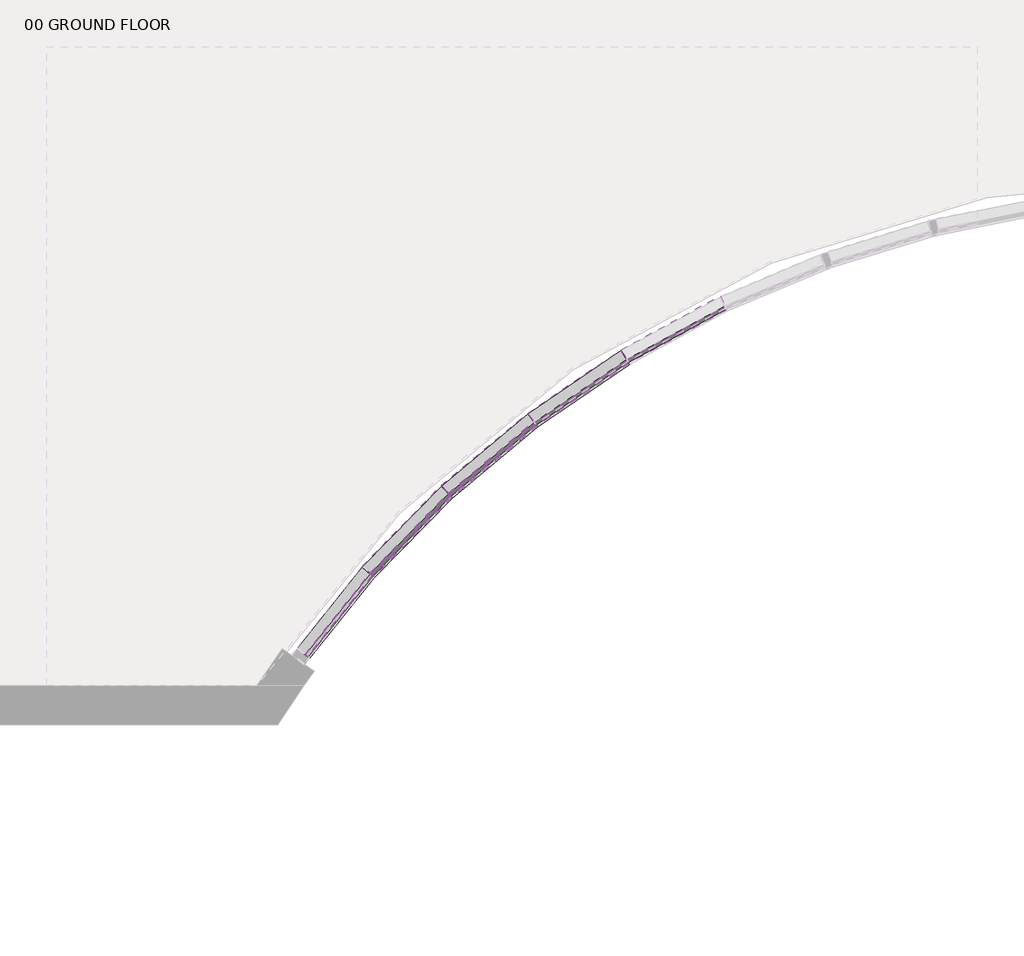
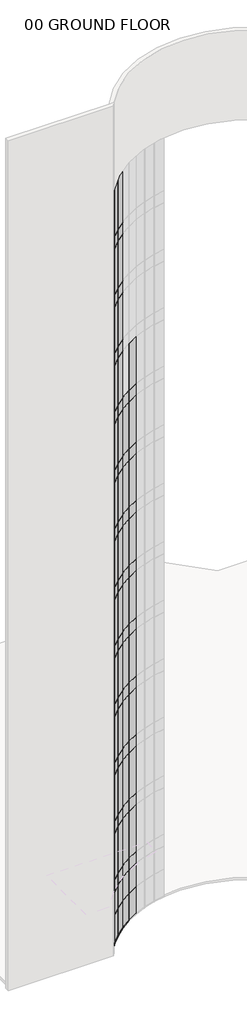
# One storey, part 5 of 33: 115 plates, 8 members.
"""IFC4 building model written with IfcOpenShell, lengths in millimetres."""

from ifc_helpers import new_model, si_unit, origin, place, context, project, spatial, transform, mapped, element, save
from components import member_bc59259d, member_67fc98f4, member_9bdda2ec, system_panel_su_blue_55959414, system_panel_su_blue_8e1787b9, system_panel_su_blue_a8d80527, system_panel_su_blue_184484ff, system_panel_su_blue_cfd944bc, system_panel_su_blue_923806a4, system_panel_su_blue_95bb2abf, system_panel_su_blue_04be1b57

model = new_model("IFC4")

# Units and contexts
model_context = context("Model", 3, world=origin())
ifc_project = project(units=[si_unit("LENGTHUNIT", "METRE", prefix="MILLI")], contexts=[model_context])

# Site, building, storey
site = spatial("IfcSite", under=ifc_project)
building = spatial("IfcBuilding", under=site)
storey = spatial("IfcBuildingStorey", under=building, Name="00 GROUND FLOOR", Elevation=0.0)

# Members
placement = place(None, origin())
member_shape = member_bc59259d(model_context)
element("IfcMember", 1, ObjectType="Rectangular Mullion : 2.5\" x 5\" rectangular", at=placement, inside=storey, context=model_context, shape_type="MappedRepresentation", body=[
    mapped(member_shape, transform((10412.6029469, 2776.0951856, 59436.0), x_axis=(0.0, 0.0, 1.0), y_axis=(-0.4773474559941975, 0.8787146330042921, 0.0), z_axis=(-0.8787146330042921, -0.4773474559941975, 0.0))),
])
element("IfcMember", 2, ObjectType="Rectangular Mullion : 2.5\" x 5\" rectangular", at=placement, inside=storey, context=model_context, shape_type="MappedRepresentation", body=[
    mapped(member_shape, transform((9673.1411425, 2273.2788717, 59436.0), x_axis=(0.0, 0.0, 1.0), y_axis=(-0.562296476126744, 0.8269357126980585, 0.0), z_axis=(-0.8269357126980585, -0.562296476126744, 0.0))),
])
element("IfcMember", 3, ObjectType="Rectangular Mullion : 2.5\" x 5\" rectangular", at=placement, inside=storey, context=model_context, shape_type="MappedRepresentation", body=[
    mapped(member_shape, transform((8987.2997873, 1699.4760821, 59436.0), x_axis=(0.0, 0.0, 1.0), y_axis=(-0.6416802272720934, 0.7669722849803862, 0.0), z_axis=(-0.7669722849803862, -0.6416802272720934, 0.0))),
])
element("IfcMember", 4, ObjectType="Rectangular Mullion : 2.5\" x 5\" rectangular", at=placement, inside=storey, context=model_context, shape_type="MappedRepresentation", body=[
    mapped(member_shape, transform((8361.8669227, 1060.3659684, 59436.0), x_axis=(0.0, 0.0, 1.0), y_axis=(-0.7147130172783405, 0.6994178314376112, 0.0), z_axis=(-0.6994178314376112, -0.7147130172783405, 0.0))),
])
element("IfcMember", 5, ObjectType="Rectangular Mullion : 2.5\" x 5\" rectangular", at=placement, inside=storey, context=model_context, shape_type="MappedRepresentation", body=[
    mapped(member_shape, transform((10412.6029469, 2776.0951856, 0.0), x_axis=(0.0, 0.0, -1.0), y_axis=(-0.5622964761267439, 0.8269357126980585, 0.0), z_axis=(0.8269357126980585, 0.5622964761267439, 0.0))),
])
element("IfcMember", 6, ObjectType="Rectangular Mullion : 2.5\" x 5\" rectangular", at=placement, inside=storey, context=model_context, shape_type="MappedRepresentation", body=[
    mapped(member_shape, transform((9673.1411425, 2273.2788717, 0.0), x_axis=(0.0, 0.0, -1.0), y_axis=(-0.6416802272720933, 0.7669722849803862, 0.0), z_axis=(0.7669722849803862, 0.6416802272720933, 0.0))),
])
member_2_shape = member_67fc98f4(model_context)
element("IfcMember", 7, ObjectType="Rectangular Mullion : 2.5\" x 5\" rectangular", at=placement, inside=storey, context=model_context, shape_type="MappedRepresentation", body=[
    mapped(member_2_shape, transform((8987.2997873, 1699.4760821, 0.0), x_axis=(0.0, 0.0, -1.0), y_axis=(-0.7147130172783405, 0.6994178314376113, 0.0), z_axis=(0.6994178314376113, 0.7147130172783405, 0.0))),
])
member_3_shape = member_9bdda2ec(model_context)
element("IfcMember", 8, ObjectType="Rectangular Mullion : 2.5\" x 5\" rectangular", at=placement, inside=storey, context=model_context, shape_type="MappedRepresentation", body=[
    mapped(member_3_shape, transform((8361.8669227, 1060.3659684, 0.0), x_axis=(0.0, 0.0, -1.0), y_axis=(-0.7806720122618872, 0.6249409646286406, 0.0), z_axis=(0.6249409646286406, 0.7806720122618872, 0.0))),
])

# Plates
system_panel_su_blue_shape = system_panel_su_blue_55959414(model_context)
element("IfcPlate", 9, ObjectType="System Panel : SU_BLUE", at=placement, inside=storey, context=model_context, shape_type="MappedRepresentation", body=[
    mapped(system_panel_su_blue_shape, transform((10805.4847018, 2989.5218194, 63.5), x_axis=(-0.8787146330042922, -0.4773474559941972, 0.0), y_axis=(0.4773474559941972, -0.8787146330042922, 0.0), z_axis=(0.0, 0.0, 1.0))),
])
element("IfcPlate", 10, ObjectType="System Panel : SU_BLUE", at=placement, inside=storey, context=model_context, shape_type="MappedRepresentation", body=[
    mapped(system_panel_su_blue_shape, transform((10042.8720447, 2524.6870286, 63.5), x_axis=(-0.8269357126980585, -0.5622964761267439, 0.0), y_axis=(0.5622964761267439, -0.8269357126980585, 0.0), z_axis=(0.0, 0.0, 1.0))),
])
element("IfcPlate", 11, ObjectType="System Panel : SU_BLUE", at=placement, inside=storey, context=model_context, shape_type="MappedRepresentation", body=[
    mapped(system_panel_su_blue_shape, transform((9330.2204649, 1986.3774769, 63.5), x_axis=(-0.7669722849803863, -0.6416802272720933, 0.0), y_axis=(0.6416802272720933, -0.7669722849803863, 0.0), z_axis=(0.0, 0.0, 1.0))),
])
element("IfcPlate", 12, ObjectType="System Panel : SU_BLUE", at=placement, inside=storey, context=model_context, shape_type="MappedRepresentation", body=[
    mapped(system_panel_su_blue_shape, transform((8674.583355, 1379.9210253, 63.5), x_axis=(-0.6994178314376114, -0.7147130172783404, 0.0), y_axis=(0.7147130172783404, -0.6994178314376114, 0.0), z_axis=(0.0, 0.0, 1.0))),
])
system_panel_su_blue_2_shape = system_panel_su_blue_8e1787b9(model_context)
element("IfcPlate", 13, ObjectType="System Panel : SU_BLUE", at=placement, inside=storey, context=model_context, shape_type="MappedRepresentation", body=[
    mapped(system_panel_su_blue_2_shape, transform((10805.4847018, 2989.5218194, 2133.6), x_axis=(-0.8787146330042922, -0.4773474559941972, 0.0), y_axis=(0.4773474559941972, -0.8787146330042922, 0.0), z_axis=(0.0, 0.0, 1.0))),
])
element("IfcPlate", 14, ObjectType="System Panel : SU_BLUE", at=placement, inside=storey, context=model_context, shape_type="MappedRepresentation", body=[
    mapped(system_panel_su_blue_2_shape, transform((10042.8720447, 2524.6870286, 2133.6), x_axis=(-0.8269357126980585, -0.5622964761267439, 0.0), y_axis=(0.5622964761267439, -0.8269357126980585, 0.0), z_axis=(0.0, 0.0, 1.0))),
])
element("IfcPlate", 15, ObjectType="System Panel : SU_BLUE", at=placement, inside=storey, context=model_context, shape_type="MappedRepresentation", body=[
    mapped(system_panel_su_blue_2_shape, transform((9330.2204649, 1986.3774769, 2133.6), x_axis=(-0.7669722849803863, -0.6416802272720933, 0.0), y_axis=(0.6416802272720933, -0.7669722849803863, 0.0), z_axis=(0.0, 0.0, 1.0))),
])
element("IfcPlate", 16, ObjectType="System Panel : SU_BLUE", at=placement, inside=storey, context=model_context, shape_type="MappedRepresentation", body=[
    mapped(system_panel_su_blue_2_shape, transform((8674.583355, 1379.9210253, 2133.6), x_axis=(-0.6994178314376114, -0.7147130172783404, 0.0), y_axis=(0.7147130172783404, -0.6994178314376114, 0.0), z_axis=(0.0, 0.0, 1.0))),
])
system_panel_su_blue_3_shape = system_panel_su_blue_a8d80527(model_context)
element("IfcPlate", 17, ObjectType="System Panel : SU_BLUE", at=placement, inside=storey, context=model_context, shape_type="MappedRepresentation", body=[
    mapped(system_panel_su_blue_3_shape, transform((10805.4847018, 2989.5218194, 3962.4), x_axis=(-0.8787146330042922, -0.4773474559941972, 0.0), y_axis=(0.4773474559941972, -0.8787146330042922, 0.0), z_axis=(0.0, 0.0, 1.0))),
])
element("IfcPlate", 18, ObjectType="System Panel : SU_BLUE", at=placement, inside=storey, context=model_context, shape_type="MappedRepresentation", body=[
    mapped(system_panel_su_blue_3_shape, transform((10042.8720447, 2524.6870286, 3962.4), x_axis=(-0.8269357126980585, -0.5622964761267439, 0.0), y_axis=(0.5622964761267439, -0.8269357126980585, 0.0), z_axis=(0.0, 0.0, 1.0))),
])
element("IfcPlate", 19, ObjectType="System Panel : SU_BLUE", at=placement, inside=storey, context=model_context, shape_type="MappedRepresentation", body=[
    mapped(system_panel_su_blue_3_shape, transform((9330.2204649, 1986.3774769, 3962.4), x_axis=(-0.7669722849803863, -0.6416802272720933, 0.0), y_axis=(0.6416802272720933, -0.7669722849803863, 0.0), z_axis=(0.0, 0.0, 1.0))),
])
element("IfcPlate", 20, ObjectType="System Panel : SU_BLUE", at=placement, inside=storey, context=model_context, shape_type="MappedRepresentation", body=[
    mapped(system_panel_su_blue_3_shape, transform((8674.583355, 1379.9210253, 3962.4), x_axis=(-0.6994178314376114, -0.7147130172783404, 0.0), y_axis=(0.7147130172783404, -0.6994178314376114, 0.0), z_axis=(0.0, 0.0, 1.0))),
])
element("IfcPlate", 21, ObjectType="System Panel : SU_BLUE", at=placement, inside=storey, context=model_context, shape_type="MappedRepresentation", body=[
    mapped(system_panel_su_blue_3_shape, transform((10805.4847018, 2989.5218194, 8534.4), x_axis=(-0.8787146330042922, -0.4773474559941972, 0.0), y_axis=(0.4773474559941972, -0.8787146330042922, 0.0), z_axis=(0.0, 0.0, 1.0))),
])
element("IfcPlate", 22, ObjectType="System Panel : SU_BLUE", at=placement, inside=storey, context=model_context, shape_type="MappedRepresentation", body=[
    mapped(system_panel_su_blue_3_shape, transform((10042.8720447, 2524.6870286, 8534.4), x_axis=(-0.8269357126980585, -0.5622964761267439, 0.0), y_axis=(0.5622964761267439, -0.8269357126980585, 0.0), z_axis=(0.0, 0.0, 1.0))),
])
element("IfcPlate", 23, ObjectType="System Panel : SU_BLUE", at=placement, inside=storey, context=model_context, shape_type="MappedRepresentation", body=[
    mapped(system_panel_su_blue_3_shape, transform((9330.2204649, 1986.3774769, 8534.4), x_axis=(-0.7669722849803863, -0.6416802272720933, 0.0), y_axis=(0.6416802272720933, -0.7669722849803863, 0.0), z_axis=(0.0, 0.0, 1.0))),
])
element("IfcPlate", 24, ObjectType="System Panel : SU_BLUE", at=placement, inside=storey, context=model_context, shape_type="MappedRepresentation", body=[
    mapped(system_panel_su_blue_3_shape, transform((8674.583355, 1379.9210253, 8534.4), x_axis=(-0.6994178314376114, -0.7147130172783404, 0.0), y_axis=(0.7147130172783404, -0.6994178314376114, 0.0), z_axis=(0.0, 0.0, 1.0))),
])
element("IfcPlate", 25, ObjectType="System Panel : SU_BLUE", at=placement, inside=storey, context=model_context, shape_type="MappedRepresentation", body=[
    mapped(system_panel_su_blue_3_shape, transform((10805.4847018, 2989.5218194, 13106.4), x_axis=(-0.8787146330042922, -0.4773474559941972, 0.0), y_axis=(0.4773474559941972, -0.8787146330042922, 0.0), z_axis=(0.0, 0.0, 1.0))),
])
element("IfcPlate", 26, ObjectType="System Panel : SU_BLUE", at=placement, inside=storey, context=model_context, shape_type="MappedRepresentation", body=[
    mapped(system_panel_su_blue_3_shape, transform((10042.8720447, 2524.6870286, 13106.4), x_axis=(-0.8269357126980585, -0.5622964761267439, 0.0), y_axis=(0.5622964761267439, -0.8269357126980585, 0.0), z_axis=(0.0, 0.0, 1.0))),
])
element("IfcPlate", 27, ObjectType="System Panel : SU_BLUE", at=placement, inside=storey, context=model_context, shape_type="MappedRepresentation", body=[
    mapped(system_panel_su_blue_3_shape, transform((9330.2204649, 1986.3774769, 13106.4), x_axis=(-0.7669722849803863, -0.6416802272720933, 0.0), y_axis=(0.6416802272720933, -0.7669722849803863, 0.0), z_axis=(0.0, 0.0, 1.0))),
])
element("IfcPlate", 28, ObjectType="System Panel : SU_BLUE", at=placement, inside=storey, context=model_context, shape_type="MappedRepresentation", body=[
    mapped(system_panel_su_blue_3_shape, transform((8674.583355, 1379.9210253, 13106.4), x_axis=(-0.6994178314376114, -0.7147130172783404, 0.0), y_axis=(0.7147130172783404, -0.6994178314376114, 0.0), z_axis=(0.0, 0.0, 1.0))),
])
element("IfcPlate", 29, ObjectType="System Panel : SU_BLUE", at=placement, inside=storey, context=model_context, shape_type="MappedRepresentation", body=[
    mapped(system_panel_su_blue_3_shape, transform((10805.4847018, 2989.5218194, 17678.4), x_axis=(-0.8787146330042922, -0.4773474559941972, 0.0), y_axis=(0.4773474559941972, -0.8787146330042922, 0.0), z_axis=(0.0, 0.0, 1.0))),
])
element("IfcPlate", 30, ObjectType="System Panel : SU_BLUE", at=placement, inside=storey, context=model_context, shape_type="MappedRepresentation", body=[
    mapped(system_panel_su_blue_3_shape, transform((10042.8720447, 2524.6870286, 17678.4), x_axis=(-0.8269357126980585, -0.5622964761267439, 0.0), y_axis=(0.5622964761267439, -0.8269357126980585, 0.0), z_axis=(0.0, 0.0, 1.0))),
])
element("IfcPlate", 31, ObjectType="System Panel : SU_BLUE", at=placement, inside=storey, context=model_context, shape_type="MappedRepresentation", body=[
    mapped(system_panel_su_blue_3_shape, transform((9330.2204649, 1986.3774769, 17678.4), x_axis=(-0.7669722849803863, -0.6416802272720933, 0.0), y_axis=(0.6416802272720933, -0.7669722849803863, 0.0), z_axis=(0.0, 0.0, 1.0))),
])
element("IfcPlate", 32, ObjectType="System Panel : SU_BLUE", at=placement, inside=storey, context=model_context, shape_type="MappedRepresentation", body=[
    mapped(system_panel_su_blue_3_shape, transform((8674.583355, 1379.9210253, 17678.4), x_axis=(-0.6994178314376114, -0.7147130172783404, 0.0), y_axis=(0.7147130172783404, -0.6994178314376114, 0.0), z_axis=(0.0, 0.0, 1.0))),
])
element("IfcPlate", 33, ObjectType="System Panel : SU_BLUE", at=placement, inside=storey, context=model_context, shape_type="MappedRepresentation", body=[
    mapped(system_panel_su_blue_3_shape, transform((10805.4847018, 2989.5218194, 22250.4), x_axis=(-0.8787146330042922, -0.4773474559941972, 0.0), y_axis=(0.4773474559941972, -0.8787146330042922, 0.0), z_axis=(0.0, 0.0, 1.0))),
])
element("IfcPlate", 34, ObjectType="System Panel : SU_BLUE", at=placement, inside=storey, context=model_context, shape_type="MappedRepresentation", body=[
    mapped(system_panel_su_blue_3_shape, transform((10042.8720447, 2524.6870286, 22250.4), x_axis=(-0.8269357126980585, -0.5622964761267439, 0.0), y_axis=(0.5622964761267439, -0.8269357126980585, 0.0), z_axis=(0.0, 0.0, 1.0))),
])
element("IfcPlate", 35, ObjectType="System Panel : SU_BLUE", at=placement, inside=storey, context=model_context, shape_type="MappedRepresentation", body=[
    mapped(system_panel_su_blue_3_shape, transform((9330.2204649, 1986.3774769, 22250.4), x_axis=(-0.7669722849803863, -0.6416802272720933, 0.0), y_axis=(0.6416802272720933, -0.7669722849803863, 0.0), z_axis=(0.0, 0.0, 1.0))),
])
element("IfcPlate", 36, ObjectType="System Panel : SU_BLUE", at=placement, inside=storey, context=model_context, shape_type="MappedRepresentation", body=[
    mapped(system_panel_su_blue_3_shape, transform((8674.583355, 1379.9210253, 22250.4), x_axis=(-0.6994178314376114, -0.7147130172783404, 0.0), y_axis=(0.7147130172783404, -0.6994178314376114, 0.0), z_axis=(0.0, 0.0, 1.0))),
])
element("IfcPlate", 37, ObjectType="System Panel : SU_BLUE", at=placement, inside=storey, context=model_context, shape_type="MappedRepresentation", body=[
    mapped(system_panel_su_blue_3_shape, transform((10805.4847018, 2989.5218194, 26822.4), x_axis=(-0.8787146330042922, -0.4773474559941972, 0.0), y_axis=(0.4773474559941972, -0.8787146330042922, 0.0), z_axis=(0.0, 0.0, 1.0))),
])
element("IfcPlate", 38, ObjectType="System Panel : SU_BLUE", at=placement, inside=storey, context=model_context, shape_type="MappedRepresentation", body=[
    mapped(system_panel_su_blue_3_shape, transform((10042.8720447, 2524.6870286, 26822.4), x_axis=(-0.8269357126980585, -0.5622964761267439, 0.0), y_axis=(0.5622964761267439, -0.8269357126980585, 0.0), z_axis=(0.0, 0.0, 1.0))),
])
element("IfcPlate", 39, ObjectType="System Panel : SU_BLUE", at=placement, inside=storey, context=model_context, shape_type="MappedRepresentation", body=[
    mapped(system_panel_su_blue_3_shape, transform((9330.2204649, 1986.3774769, 26822.4), x_axis=(-0.7669722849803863, -0.6416802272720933, 0.0), y_axis=(0.6416802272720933, -0.7669722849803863, 0.0), z_axis=(0.0, 0.0, 1.0))),
])
element("IfcPlate", 40, ObjectType="System Panel : SU_BLUE", at=placement, inside=storey, context=model_context, shape_type="MappedRepresentation", body=[
    mapped(system_panel_su_blue_3_shape, transform((8674.583355, 1379.9210253, 26822.4), x_axis=(-0.6994178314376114, -0.7147130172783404, 0.0), y_axis=(0.7147130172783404, -0.6994178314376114, 0.0), z_axis=(0.0, 0.0, 1.0))),
])
element("IfcPlate", 41, ObjectType="System Panel : SU_BLUE", at=placement, inside=storey, context=model_context, shape_type="MappedRepresentation", body=[
    mapped(system_panel_su_blue_3_shape, transform((10805.4847018, 2989.5218194, 31394.4), x_axis=(-0.8787146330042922, -0.4773474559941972, 0.0), y_axis=(0.4773474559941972, -0.8787146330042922, 0.0), z_axis=(0.0, 0.0, 1.0))),
])
element("IfcPlate", 42, ObjectType="System Panel : SU_BLUE", at=placement, inside=storey, context=model_context, shape_type="MappedRepresentation", body=[
    mapped(system_panel_su_blue_3_shape, transform((10042.8720447, 2524.6870286, 31394.4), x_axis=(-0.8269357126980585, -0.5622964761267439, 0.0), y_axis=(0.5622964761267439, -0.8269357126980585, 0.0), z_axis=(0.0, 0.0, 1.0))),
])
element("IfcPlate", 43, ObjectType="System Panel : SU_BLUE", at=placement, inside=storey, context=model_context, shape_type="MappedRepresentation", body=[
    mapped(system_panel_su_blue_3_shape, transform((9330.2204649, 1986.3774769, 31394.4), x_axis=(-0.7669722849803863, -0.6416802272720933, 0.0), y_axis=(0.6416802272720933, -0.7669722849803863, 0.0), z_axis=(0.0, 0.0, 1.0))),
])
element("IfcPlate", 44, ObjectType="System Panel : SU_BLUE", at=placement, inside=storey, context=model_context, shape_type="MappedRepresentation", body=[
    mapped(system_panel_su_blue_3_shape, transform((8674.583355, 1379.9210253, 31394.4), x_axis=(-0.6994178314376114, -0.7147130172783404, 0.0), y_axis=(0.7147130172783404, -0.6994178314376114, 0.0), z_axis=(0.0, 0.0, 1.0))),
])
element("IfcPlate", 45, ObjectType="System Panel : SU_BLUE", at=placement, inside=storey, context=model_context, shape_type="MappedRepresentation", body=[
    mapped(system_panel_su_blue_3_shape, transform((10805.4847018, 2989.5218194, 35966.4), x_axis=(-0.8787146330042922, -0.4773474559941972, 0.0), y_axis=(0.4773474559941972, -0.8787146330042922, 0.0), z_axis=(0.0, 0.0, 1.0))),
])
element("IfcPlate", 46, ObjectType="System Panel : SU_BLUE", at=placement, inside=storey, context=model_context, shape_type="MappedRepresentation", body=[
    mapped(system_panel_su_blue_3_shape, transform((10042.8720447, 2524.6870286, 35966.4), x_axis=(-0.8269357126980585, -0.5622964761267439, 0.0), y_axis=(0.5622964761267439, -0.8269357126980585, 0.0), z_axis=(0.0, 0.0, 1.0))),
])
element("IfcPlate", 47, ObjectType="System Panel : SU_BLUE", at=placement, inside=storey, context=model_context, shape_type="MappedRepresentation", body=[
    mapped(system_panel_su_blue_3_shape, transform((9330.2204649, 1986.3774769, 35966.4), x_axis=(-0.7669722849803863, -0.6416802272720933, 0.0), y_axis=(0.6416802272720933, -0.7669722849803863, 0.0), z_axis=(0.0, 0.0, 1.0))),
])
element("IfcPlate", 48, ObjectType="System Panel : SU_BLUE", at=placement, inside=storey, context=model_context, shape_type="MappedRepresentation", body=[
    mapped(system_panel_su_blue_3_shape, transform((8674.583355, 1379.9210253, 35966.4), x_axis=(-0.6994178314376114, -0.7147130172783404, 0.0), y_axis=(0.7147130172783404, -0.6994178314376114, 0.0), z_axis=(0.0, 0.0, 1.0))),
])
element("IfcPlate", 49, ObjectType="System Panel : SU_BLUE", at=placement, inside=storey, context=model_context, shape_type="MappedRepresentation", body=[
    mapped(system_panel_su_blue_3_shape, transform((10805.4847018, 2989.5218194, 40538.4), x_axis=(-0.8787146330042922, -0.4773474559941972, 0.0), y_axis=(0.4773474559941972, -0.8787146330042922, 0.0), z_axis=(0.0, 0.0, 1.0))),
])
element("IfcPlate", 50, ObjectType="System Panel : SU_BLUE", at=placement, inside=storey, context=model_context, shape_type="MappedRepresentation", body=[
    mapped(system_panel_su_blue_3_shape, transform((10042.8720447, 2524.6870286, 40538.4), x_axis=(-0.8269357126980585, -0.5622964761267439, 0.0), y_axis=(0.5622964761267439, -0.8269357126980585, 0.0), z_axis=(0.0, 0.0, 1.0))),
])
element("IfcPlate", 51, ObjectType="System Panel : SU_BLUE", at=placement, inside=storey, context=model_context, shape_type="MappedRepresentation", body=[
    mapped(system_panel_su_blue_3_shape, transform((9330.2204649, 1986.3774769, 40538.4), x_axis=(-0.7669722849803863, -0.6416802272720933, 0.0), y_axis=(0.6416802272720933, -0.7669722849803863, 0.0), z_axis=(0.0, 0.0, 1.0))),
])
element("IfcPlate", 52, ObjectType="System Panel : SU_BLUE", at=placement, inside=storey, context=model_context, shape_type="MappedRepresentation", body=[
    mapped(system_panel_su_blue_3_shape, transform((8674.583355, 1379.9210253, 40538.4), x_axis=(-0.6994178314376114, -0.7147130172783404, 0.0), y_axis=(0.7147130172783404, -0.6994178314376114, 0.0), z_axis=(0.0, 0.0, 1.0))),
])
element("IfcPlate", 53, ObjectType="System Panel : SU_BLUE", at=placement, inside=storey, context=model_context, shape_type="MappedRepresentation", body=[
    mapped(system_panel_su_blue_3_shape, transform((9330.2204649, 1986.3774769, 45110.4), x_axis=(-0.7669722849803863, -0.6416802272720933, 0.0), y_axis=(0.6416802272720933, -0.7669722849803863, 0.0), z_axis=(0.0, 0.0, 1.0))),
])
element("IfcPlate", 54, ObjectType="System Panel : SU_BLUE", at=placement, inside=storey, context=model_context, shape_type="MappedRepresentation", body=[
    mapped(system_panel_su_blue_3_shape, transform((8674.583355, 1379.9210253, 45110.4), x_axis=(-0.6994178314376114, -0.7147130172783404, 0.0), y_axis=(0.7147130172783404, -0.6994178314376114, 0.0), z_axis=(0.0, 0.0, 1.0))),
])
element("IfcPlate", 55, ObjectType="System Panel : SU_BLUE", at=placement, inside=storey, context=model_context, shape_type="MappedRepresentation", body=[
    mapped(system_panel_su_blue_3_shape, transform((9330.2204649, 1986.3774769, 49682.4), x_axis=(-0.7669722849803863, -0.6416802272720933, 0.0), y_axis=(0.6416802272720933, -0.7669722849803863, 0.0), z_axis=(0.0, 0.0, 1.0))),
])
element("IfcPlate", 56, ObjectType="System Panel : SU_BLUE", at=placement, inside=storey, context=model_context, shape_type="MappedRepresentation", body=[
    mapped(system_panel_su_blue_3_shape, transform((8674.583355, 1379.9210253, 49682.4), x_axis=(-0.6994178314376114, -0.7147130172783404, 0.0), y_axis=(0.7147130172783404, -0.6994178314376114, 0.0), z_axis=(0.0, 0.0, 1.0))),
])
element("IfcPlate", 57, ObjectType="System Panel : SU_BLUE", at=placement, inside=storey, context=model_context, shape_type="MappedRepresentation", body=[
    mapped(system_panel_su_blue_3_shape, transform((9330.2204649, 1986.3774769, 54254.4), x_axis=(-0.7669722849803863, -0.6416802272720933, 0.0), y_axis=(0.6416802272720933, -0.7669722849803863, 0.0), z_axis=(0.0, 0.0, 1.0))),
])
element("IfcPlate", 58, ObjectType="System Panel : SU_BLUE", at=placement, inside=storey, context=model_context, shape_type="MappedRepresentation", body=[
    mapped(system_panel_su_blue_3_shape, transform((8674.583355, 1379.9210253, 54254.4), x_axis=(-0.6994178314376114, -0.7147130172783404, 0.0), y_axis=(0.7147130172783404, -0.6994178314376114, 0.0), z_axis=(0.0, 0.0, 1.0))),
])
system_panel_su_blue_4_shape = system_panel_su_blue_184484ff(model_context)
element("IfcPlate", 59, ObjectType="System Panel : SU_BLUE", at=placement, inside=storey, context=model_context, shape_type="MappedRepresentation", body=[
    mapped(system_panel_su_blue_4_shape, transform((8102.2916859, 736.106344, 3962.4), x_axis=(-0.624940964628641, -0.780672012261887, 0.0), y_axis=(0.780672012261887, -0.624940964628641, 0.0), z_axis=(0.0, 0.0, 1.0))),
])
element("IfcPlate", 60, ObjectType="System Panel : SU_BLUE", at=placement, inside=storey, context=model_context, shape_type="MappedRepresentation", body=[
    mapped(system_panel_su_blue_4_shape, transform((8102.2916859, 736.106344, 8534.4), x_axis=(-0.624940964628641, -0.780672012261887, 0.0), y_axis=(0.780672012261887, -0.624940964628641, 0.0), z_axis=(0.0, 0.0, 1.0))),
])
element("IfcPlate", 61, ObjectType="System Panel : SU_BLUE", at=placement, inside=storey, context=model_context, shape_type="MappedRepresentation", body=[
    mapped(system_panel_su_blue_4_shape, transform((8102.2916859, 736.106344, 13106.4), x_axis=(-0.624940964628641, -0.780672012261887, 0.0), y_axis=(0.780672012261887, -0.624940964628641, 0.0), z_axis=(0.0, 0.0, 1.0))),
])
element("IfcPlate", 62, ObjectType="System Panel : SU_BLUE", at=placement, inside=storey, context=model_context, shape_type="MappedRepresentation", body=[
    mapped(system_panel_su_blue_4_shape, transform((8102.2916859, 736.106344, 17678.4), x_axis=(-0.624940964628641, -0.780672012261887, 0.0), y_axis=(0.780672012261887, -0.624940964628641, 0.0), z_axis=(0.0, 0.0, 1.0))),
])
element("IfcPlate", 63, ObjectType="System Panel : SU_BLUE", at=placement, inside=storey, context=model_context, shape_type="MappedRepresentation", body=[
    mapped(system_panel_su_blue_4_shape, transform((8102.2916859, 736.106344, 22250.4), x_axis=(-0.624940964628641, -0.780672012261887, 0.0), y_axis=(0.780672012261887, -0.624940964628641, 0.0), z_axis=(0.0, 0.0, 1.0))),
])
element("IfcPlate", 64, ObjectType="System Panel : SU_BLUE", at=placement, inside=storey, context=model_context, shape_type="MappedRepresentation", body=[
    mapped(system_panel_su_blue_4_shape, transform((8102.2916859, 736.106344, 26822.4), x_axis=(-0.624940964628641, -0.780672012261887, 0.0), y_axis=(0.780672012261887, -0.624940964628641, 0.0), z_axis=(0.0, 0.0, 1.0))),
])
element("IfcPlate", 65, ObjectType="System Panel : SU_BLUE", at=placement, inside=storey, context=model_context, shape_type="MappedRepresentation", body=[
    mapped(system_panel_su_blue_4_shape, transform((8102.2916859, 736.106344, 31394.4), x_axis=(-0.624940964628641, -0.780672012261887, 0.0), y_axis=(0.780672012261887, -0.624940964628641, 0.0), z_axis=(0.0, 0.0, 1.0))),
])
element("IfcPlate", 66, ObjectType="System Panel : SU_BLUE", at=placement, inside=storey, context=model_context, shape_type="MappedRepresentation", body=[
    mapped(system_panel_su_blue_4_shape, transform((8102.2916859, 736.106344, 35966.4), x_axis=(-0.624940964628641, -0.780672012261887, 0.0), y_axis=(0.780672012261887, -0.624940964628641, 0.0), z_axis=(0.0, 0.0, 1.0))),
])
element("IfcPlate", 67, ObjectType="System Panel : SU_BLUE", at=placement, inside=storey, context=model_context, shape_type="MappedRepresentation", body=[
    mapped(system_panel_su_blue_4_shape, transform((8102.2916859, 736.106344, 40538.4), x_axis=(-0.624940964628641, -0.780672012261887, 0.0), y_axis=(0.780672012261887, -0.624940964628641, 0.0), z_axis=(0.0, 0.0, 1.0))),
])
element("IfcPlate", 68, ObjectType="System Panel : SU_BLUE", at=placement, inside=storey, context=model_context, shape_type="MappedRepresentation", body=[
    mapped(system_panel_su_blue_4_shape, transform((8102.2916859, 736.106344, 45110.4), x_axis=(-0.624940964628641, -0.780672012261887, 0.0), y_axis=(0.780672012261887, -0.624940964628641, 0.0), z_axis=(0.0, 0.0, 1.0))),
])
element("IfcPlate", 69, ObjectType="System Panel : SU_BLUE", at=placement, inside=storey, context=model_context, shape_type="MappedRepresentation", body=[
    mapped(system_panel_su_blue_4_shape, transform((8102.2916859, 736.106344, 49682.4), x_axis=(-0.624940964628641, -0.780672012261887, 0.0), y_axis=(0.780672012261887, -0.624940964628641, 0.0), z_axis=(0.0, 0.0, 1.0))),
])
element("IfcPlate", 70, ObjectType="System Panel : SU_BLUE", at=placement, inside=storey, context=model_context, shape_type="MappedRepresentation", body=[
    mapped(system_panel_su_blue_4_shape, transform((8102.2916859, 736.106344, 54254.4), x_axis=(-0.624940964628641, -0.780672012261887, 0.0), y_axis=(0.780672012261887, -0.624940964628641, 0.0), z_axis=(0.0, 0.0, 1.0))),
])
system_panel_su_blue_5_shape = system_panel_su_blue_cfd944bc(model_context)
element("IfcPlate", 71, ObjectType="System Panel : SU_BLUE", at=placement, inside=storey, context=model_context, shape_type="MappedRepresentation", body=[
    mapped(system_panel_su_blue_5_shape, transform((10805.4847018, 2989.5218194, 4876.8), x_axis=(-0.8787146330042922, -0.4773474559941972, 0.0), y_axis=(0.4773474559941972, -0.8787146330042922, 0.0), z_axis=(0.0, 0.0, 1.0))),
])
element("IfcPlate", 72, ObjectType="System Panel : SU_BLUE", at=placement, inside=storey, context=model_context, shape_type="MappedRepresentation", body=[
    mapped(system_panel_su_blue_5_shape, transform((10042.8720447, 2524.6870286, 4876.8), x_axis=(-0.8269357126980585, -0.5622964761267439, 0.0), y_axis=(0.5622964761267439, -0.8269357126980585, 0.0), z_axis=(0.0, 0.0, 1.0))),
])
element("IfcPlate", 73, ObjectType="System Panel : SU_BLUE", at=placement, inside=storey, context=model_context, shape_type="MappedRepresentation", body=[
    mapped(system_panel_su_blue_5_shape, transform((9330.2204649, 1986.3774769, 4876.8), x_axis=(-0.7669722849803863, -0.6416802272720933, 0.0), y_axis=(0.6416802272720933, -0.7669722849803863, 0.0), z_axis=(0.0, 0.0, 1.0))),
])
element("IfcPlate", 74, ObjectType="System Panel : SU_BLUE", at=placement, inside=storey, context=model_context, shape_type="MappedRepresentation", body=[
    mapped(system_panel_su_blue_5_shape, transform((8674.583355, 1379.9210253, 4876.8), x_axis=(-0.6994178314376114, -0.7147130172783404, 0.0), y_axis=(0.7147130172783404, -0.6994178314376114, 0.0), z_axis=(0.0, 0.0, 1.0))),
])
element("IfcPlate", 75, ObjectType="System Panel : SU_BLUE", at=placement, inside=storey, context=model_context, shape_type="MappedRepresentation", body=[
    mapped(system_panel_su_blue_5_shape, transform((10805.4847018, 2989.5218194, 9448.8), x_axis=(-0.8787146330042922, -0.4773474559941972, 0.0), y_axis=(0.4773474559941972, -0.8787146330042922, 0.0), z_axis=(0.0, 0.0, 1.0))),
])
element("IfcPlate", 76, ObjectType="System Panel : SU_BLUE", at=placement, inside=storey, context=model_context, shape_type="MappedRepresentation", body=[
    mapped(system_panel_su_blue_5_shape, transform((10042.8720447, 2524.6870286, 9448.8), x_axis=(-0.8269357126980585, -0.5622964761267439, 0.0), y_axis=(0.5622964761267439, -0.8269357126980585, 0.0), z_axis=(0.0, 0.0, 1.0))),
])
element("IfcPlate", 77, ObjectType="System Panel : SU_BLUE", at=placement, inside=storey, context=model_context, shape_type="MappedRepresentation", body=[
    mapped(system_panel_su_blue_5_shape, transform((9330.2204649, 1986.3774769, 9448.8), x_axis=(-0.7669722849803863, -0.6416802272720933, 0.0), y_axis=(0.6416802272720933, -0.7669722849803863, 0.0), z_axis=(0.0, 0.0, 1.0))),
])
element("IfcPlate", 78, ObjectType="System Panel : SU_BLUE", at=placement, inside=storey, context=model_context, shape_type="MappedRepresentation", body=[
    mapped(system_panel_su_blue_5_shape, transform((8674.583355, 1379.9210253, 9448.8), x_axis=(-0.6994178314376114, -0.7147130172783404, 0.0), y_axis=(0.7147130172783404, -0.6994178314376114, 0.0), z_axis=(0.0, 0.0, 1.0))),
])
element("IfcPlate", 79, ObjectType="System Panel : SU_BLUE", at=placement, inside=storey, context=model_context, shape_type="MappedRepresentation", body=[
    mapped(system_panel_su_blue_5_shape, transform((10805.4847018, 2989.5218194, 14020.8), x_axis=(-0.8787146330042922, -0.4773474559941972, 0.0), y_axis=(0.4773474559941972, -0.8787146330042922, 0.0), z_axis=(0.0, 0.0, 1.0))),
])
element("IfcPlate", 80, ObjectType="System Panel : SU_BLUE", at=placement, inside=storey, context=model_context, shape_type="MappedRepresentation", body=[
    mapped(system_panel_su_blue_5_shape, transform((10042.8720447, 2524.6870286, 14020.8), x_axis=(-0.8269357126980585, -0.5622964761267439, 0.0), y_axis=(0.5622964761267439, -0.8269357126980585, 0.0), z_axis=(0.0, 0.0, 1.0))),
])
element("IfcPlate", 81, ObjectType="System Panel : SU_BLUE", at=placement, inside=storey, context=model_context, shape_type="MappedRepresentation", body=[
    mapped(system_panel_su_blue_5_shape, transform((9330.2204649, 1986.3774769, 14020.8), x_axis=(-0.7669722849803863, -0.6416802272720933, 0.0), y_axis=(0.6416802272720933, -0.7669722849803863, 0.0), z_axis=(0.0, 0.0, 1.0))),
])
element("IfcPlate", 82, ObjectType="System Panel : SU_BLUE", at=placement, inside=storey, context=model_context, shape_type="MappedRepresentation", body=[
    mapped(system_panel_su_blue_5_shape, transform((8674.583355, 1379.9210253, 14020.8), x_axis=(-0.6994178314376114, -0.7147130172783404, 0.0), y_axis=(0.7147130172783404, -0.6994178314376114, 0.0), z_axis=(0.0, 0.0, 1.0))),
])
element("IfcPlate", 83, ObjectType="System Panel : SU_BLUE", at=placement, inside=storey, context=model_context, shape_type="MappedRepresentation", body=[
    mapped(system_panel_su_blue_5_shape, transform((10805.4847018, 2989.5218194, 18592.8), x_axis=(-0.8787146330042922, -0.4773474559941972, 0.0), y_axis=(0.4773474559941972, -0.8787146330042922, 0.0), z_axis=(0.0, 0.0, 1.0))),
])
element("IfcPlate", 84, ObjectType="System Panel : SU_BLUE", at=placement, inside=storey, context=model_context, shape_type="MappedRepresentation", body=[
    mapped(system_panel_su_blue_5_shape, transform((10042.8720447, 2524.6870286, 18592.8), x_axis=(-0.8269357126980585, -0.5622964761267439, 0.0), y_axis=(0.5622964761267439, -0.8269357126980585, 0.0), z_axis=(0.0, 0.0, 1.0))),
])
element("IfcPlate", 85, ObjectType="System Panel : SU_BLUE", at=placement, inside=storey, context=model_context, shape_type="MappedRepresentation", body=[
    mapped(system_panel_su_blue_5_shape, transform((9330.2204649, 1986.3774769, 18592.8), x_axis=(-0.7669722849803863, -0.6416802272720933, 0.0), y_axis=(0.6416802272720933, -0.7669722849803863, 0.0), z_axis=(0.0, 0.0, 1.0))),
])
element("IfcPlate", 86, ObjectType="System Panel : SU_BLUE", at=placement, inside=storey, context=model_context, shape_type="MappedRepresentation", body=[
    mapped(system_panel_su_blue_5_shape, transform((8674.583355, 1379.9210253, 18592.8), x_axis=(-0.6994178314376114, -0.7147130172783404, 0.0), y_axis=(0.7147130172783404, -0.6994178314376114, 0.0), z_axis=(0.0, 0.0, 1.0))),
])
element("IfcPlate", 87, ObjectType="System Panel : SU_BLUE", at=placement, inside=storey, context=model_context, shape_type="MappedRepresentation", body=[
    mapped(system_panel_su_blue_5_shape, transform((10805.4847018, 2989.5218194, 23164.8), x_axis=(-0.8787146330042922, -0.4773474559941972, 0.0), y_axis=(0.4773474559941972, -0.8787146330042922, 0.0), z_axis=(0.0, 0.0, 1.0))),
])
element("IfcPlate", 88, ObjectType="System Panel : SU_BLUE", at=placement, inside=storey, context=model_context, shape_type="MappedRepresentation", body=[
    mapped(system_panel_su_blue_5_shape, transform((10042.8720447, 2524.6870286, 23164.8), x_axis=(-0.8269357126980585, -0.5622964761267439, 0.0), y_axis=(0.5622964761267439, -0.8269357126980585, 0.0), z_axis=(0.0, 0.0, 1.0))),
])
element("IfcPlate", 89, ObjectType="System Panel : SU_BLUE", at=placement, inside=storey, context=model_context, shape_type="MappedRepresentation", body=[
    mapped(system_panel_su_blue_5_shape, transform((9330.2204649, 1986.3774769, 23164.8), x_axis=(-0.7669722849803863, -0.6416802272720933, 0.0), y_axis=(0.6416802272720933, -0.7669722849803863, 0.0), z_axis=(0.0, 0.0, 1.0))),
])
element("IfcPlate", 90, ObjectType="System Panel : SU_BLUE", at=placement, inside=storey, context=model_context, shape_type="MappedRepresentation", body=[
    mapped(system_panel_su_blue_5_shape, transform((8674.583355, 1379.9210253, 23164.8), x_axis=(-0.6994178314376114, -0.7147130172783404, 0.0), y_axis=(0.7147130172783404, -0.6994178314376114, 0.0), z_axis=(0.0, 0.0, 1.0))),
])
element("IfcPlate", 91, ObjectType="System Panel : SU_BLUE", at=placement, inside=storey, context=model_context, shape_type="MappedRepresentation", body=[
    mapped(system_panel_su_blue_5_shape, transform((10805.4847018, 2989.5218194, 27736.8), x_axis=(-0.8787146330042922, -0.4773474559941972, 0.0), y_axis=(0.4773474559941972, -0.8787146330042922, 0.0), z_axis=(0.0, 0.0, 1.0))),
])
element("IfcPlate", 92, ObjectType="System Panel : SU_BLUE", at=placement, inside=storey, context=model_context, shape_type="MappedRepresentation", body=[
    mapped(system_panel_su_blue_5_shape, transform((10042.8720447, 2524.6870286, 27736.8), x_axis=(-0.8269357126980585, -0.5622964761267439, 0.0), y_axis=(0.5622964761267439, -0.8269357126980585, 0.0), z_axis=(0.0, 0.0, 1.0))),
])
element("IfcPlate", 93, ObjectType="System Panel : SU_BLUE", at=placement, inside=storey, context=model_context, shape_type="MappedRepresentation", body=[
    mapped(system_panel_su_blue_5_shape, transform((9330.2204649, 1986.3774769, 27736.8), x_axis=(-0.7669722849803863, -0.6416802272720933, 0.0), y_axis=(0.6416802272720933, -0.7669722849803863, 0.0), z_axis=(0.0, 0.0, 1.0))),
])
element("IfcPlate", 94, ObjectType="System Panel : SU_BLUE", at=placement, inside=storey, context=model_context, shape_type="MappedRepresentation", body=[
    mapped(system_panel_su_blue_5_shape, transform((8674.583355, 1379.9210253, 27736.8), x_axis=(-0.6994178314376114, -0.7147130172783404, 0.0), y_axis=(0.7147130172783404, -0.6994178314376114, 0.0), z_axis=(0.0, 0.0, 1.0))),
])
element("IfcPlate", 95, ObjectType="System Panel : SU_BLUE", at=placement, inside=storey, context=model_context, shape_type="MappedRepresentation", body=[
    mapped(system_panel_su_blue_5_shape, transform((10805.4847018, 2989.5218194, 32308.8), x_axis=(-0.8787146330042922, -0.4773474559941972, 0.0), y_axis=(0.4773474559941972, -0.8787146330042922, 0.0), z_axis=(0.0, 0.0, 1.0))),
])
element("IfcPlate", 96, ObjectType="System Panel : SU_BLUE", at=placement, inside=storey, context=model_context, shape_type="MappedRepresentation", body=[
    mapped(system_panel_su_blue_5_shape, transform((10042.8720447, 2524.6870286, 32308.8), x_axis=(-0.8269357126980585, -0.5622964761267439, 0.0), y_axis=(0.5622964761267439, -0.8269357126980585, 0.0), z_axis=(0.0, 0.0, 1.0))),
])
element("IfcPlate", 97, ObjectType="System Panel : SU_BLUE", at=placement, inside=storey, context=model_context, shape_type="MappedRepresentation", body=[
    mapped(system_panel_su_blue_5_shape, transform((9330.2204649, 1986.3774769, 32308.8), x_axis=(-0.7669722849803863, -0.6416802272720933, 0.0), y_axis=(0.6416802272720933, -0.7669722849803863, 0.0), z_axis=(0.0, 0.0, 1.0))),
])
element("IfcPlate", 98, ObjectType="System Panel : SU_BLUE", at=placement, inside=storey, context=model_context, shape_type="MappedRepresentation", body=[
    mapped(system_panel_su_blue_5_shape, transform((8674.583355, 1379.9210253, 32308.8), x_axis=(-0.6994178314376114, -0.7147130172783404, 0.0), y_axis=(0.7147130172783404, -0.6994178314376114, 0.0), z_axis=(0.0, 0.0, 1.0))),
])
element("IfcPlate", 99, ObjectType="System Panel : SU_BLUE", at=placement, inside=storey, context=model_context, shape_type="MappedRepresentation", body=[
    mapped(system_panel_su_blue_5_shape, transform((10805.4847018, 2989.5218194, 36880.8), x_axis=(-0.8787146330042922, -0.4773474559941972, 0.0), y_axis=(0.4773474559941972, -0.8787146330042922, 0.0), z_axis=(0.0, 0.0, 1.0))),
])
element("IfcPlate", 100, ObjectType="System Panel : SU_BLUE", at=placement, inside=storey, context=model_context, shape_type="MappedRepresentation", body=[
    mapped(system_panel_su_blue_5_shape, transform((10042.8720447, 2524.6870286, 36880.8), x_axis=(-0.8269357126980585, -0.5622964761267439, 0.0), y_axis=(0.5622964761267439, -0.8269357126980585, 0.0), z_axis=(0.0, 0.0, 1.0))),
])
element("IfcPlate", 101, ObjectType="System Panel : SU_BLUE", at=placement, inside=storey, context=model_context, shape_type="MappedRepresentation", body=[
    mapped(system_panel_su_blue_5_shape, transform((9330.2204649, 1986.3774769, 36880.8), x_axis=(-0.7669722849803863, -0.6416802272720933, 0.0), y_axis=(0.6416802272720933, -0.7669722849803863, 0.0), z_axis=(0.0, 0.0, 1.0))),
])
element("IfcPlate", 102, ObjectType="System Panel : SU_BLUE", at=placement, inside=storey, context=model_context, shape_type="MappedRepresentation", body=[
    mapped(system_panel_su_blue_5_shape, transform((8674.583355, 1379.9210253, 36880.8), x_axis=(-0.6994178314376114, -0.7147130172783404, 0.0), y_axis=(0.7147130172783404, -0.6994178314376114, 0.0), z_axis=(0.0, 0.0, 1.0))),
])
element("IfcPlate", 103, ObjectType="System Panel : SU_BLUE", at=placement, inside=storey, context=model_context, shape_type="MappedRepresentation", body=[
    mapped(system_panel_su_blue_5_shape, transform((10805.4847018, 2989.5218194, 41452.8), x_axis=(-0.8787146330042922, -0.4773474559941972, 0.0), y_axis=(0.4773474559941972, -0.8787146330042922, 0.0), z_axis=(0.0, 0.0, 1.0))),
])
element("IfcPlate", 104, ObjectType="System Panel : SU_BLUE", at=placement, inside=storey, context=model_context, shape_type="MappedRepresentation", body=[
    mapped(system_panel_su_blue_5_shape, transform((9330.2204649, 1986.3774769, 41452.8), x_axis=(-0.7669722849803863, -0.6416802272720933, 0.0), y_axis=(0.6416802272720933, -0.7669722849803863, 0.0), z_axis=(0.0, 0.0, 1.0))),
])
element("IfcPlate", 105, ObjectType="System Panel : SU_BLUE", at=placement, inside=storey, context=model_context, shape_type="MappedRepresentation", body=[
    mapped(system_panel_su_blue_5_shape, transform((8674.583355, 1379.9210253, 41452.8), x_axis=(-0.6994178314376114, -0.7147130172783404, 0.0), y_axis=(0.7147130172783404, -0.6994178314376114, 0.0), z_axis=(0.0, 0.0, 1.0))),
])
element("IfcPlate", 106, ObjectType="System Panel : SU_BLUE", at=placement, inside=storey, context=model_context, shape_type="MappedRepresentation", body=[
    mapped(system_panel_su_blue_5_shape, transform((9330.2204649, 1986.3774769, 46024.8), x_axis=(-0.7669722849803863, -0.6416802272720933, 0.0), y_axis=(0.6416802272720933, -0.7669722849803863, 0.0), z_axis=(0.0, 0.0, 1.0))),
])
element("IfcPlate", 107, ObjectType="System Panel : SU_BLUE", at=placement, inside=storey, context=model_context, shape_type="MappedRepresentation", body=[
    mapped(system_panel_su_blue_5_shape, transform((8674.583355, 1379.9210253, 46024.8), x_axis=(-0.6994178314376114, -0.7147130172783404, 0.0), y_axis=(0.7147130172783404, -0.6994178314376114, 0.0), z_axis=(0.0, 0.0, 1.0))),
])
element("IfcPlate", 108, ObjectType="System Panel : SU_BLUE", at=placement, inside=storey, context=model_context, shape_type="MappedRepresentation", body=[
    mapped(system_panel_su_blue_5_shape, transform((9330.2204649, 1986.3774769, 50596.8), x_axis=(-0.7669722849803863, -0.6416802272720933, 0.0), y_axis=(0.6416802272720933, -0.7669722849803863, 0.0), z_axis=(0.0, 0.0, 1.0))),
])
element("IfcPlate", 109, ObjectType="System Panel : SU_BLUE", at=placement, inside=storey, context=model_context, shape_type="MappedRepresentation", body=[
    mapped(system_panel_su_blue_5_shape, transform((8674.583355, 1379.9210253, 50596.8), x_axis=(-0.6994178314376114, -0.7147130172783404, 0.0), y_axis=(0.7147130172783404, -0.6994178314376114, 0.0), z_axis=(0.0, 0.0, 1.0))),
])
system_panel_su_blue_6_shape = system_panel_su_blue_923806a4(model_context)
element("IfcPlate", 110, ObjectType="System Panel : SU_BLUE", at=placement, inside=storey, context=model_context, shape_type="MappedRepresentation", body=[
    mapped(system_panel_su_blue_6_shape, transform((8102.2916859, 736.106344, 4876.8), x_axis=(-0.624940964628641, -0.780672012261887, 0.0), y_axis=(0.780672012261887, -0.624940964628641, 0.0), z_axis=(0.0, 0.0, 1.0))),
])
element("IfcPlate", 111, ObjectType="System Panel : SU_BLUE", at=placement, inside=storey, context=model_context, shape_type="MappedRepresentation", body=[
    mapped(system_panel_su_blue_6_shape, transform((8102.2916859, 736.106344, 9448.8), x_axis=(-0.624940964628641, -0.780672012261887, 0.0), y_axis=(0.780672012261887, -0.624940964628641, 0.0), z_axis=(0.0, 0.0, 1.0))),
])
element("IfcPlate", 112, ObjectType="System Panel : SU_BLUE", at=placement, inside=storey, context=model_context, shape_type="MappedRepresentation", body=[
    mapped(system_panel_su_blue_6_shape, transform((8102.2916859, 736.106344, 14020.8), x_axis=(-0.624940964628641, -0.780672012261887, 0.0), y_axis=(0.780672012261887, -0.624940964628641, 0.0), z_axis=(0.0, 0.0, 1.0))),
])
element("IfcPlate", 113, ObjectType="System Panel : SU_BLUE", at=placement, inside=storey, context=model_context, shape_type="MappedRepresentation", body=[
    mapped(system_panel_su_blue_6_shape, transform((8102.2916859, 736.106344, 18592.8), x_axis=(-0.624940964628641, -0.780672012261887, 0.0), y_axis=(0.780672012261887, -0.624940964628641, 0.0), z_axis=(0.0, 0.0, 1.0))),
])
element("IfcPlate", 114, ObjectType="System Panel : SU_BLUE", at=placement, inside=storey, context=model_context, shape_type="MappedRepresentation", body=[
    mapped(system_panel_su_blue_6_shape, transform((8102.2916859, 736.106344, 23164.8), x_axis=(-0.624940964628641, -0.780672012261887, 0.0), y_axis=(0.780672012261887, -0.624940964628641, 0.0), z_axis=(0.0, 0.0, 1.0))),
])
element("IfcPlate", 115, ObjectType="System Panel : SU_BLUE", at=placement, inside=storey, context=model_context, shape_type="MappedRepresentation", body=[
    mapped(system_panel_su_blue_6_shape, transform((8102.2916859, 736.106344, 27736.8), x_axis=(-0.624940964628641, -0.780672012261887, 0.0), y_axis=(0.780672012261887, -0.624940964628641, 0.0), z_axis=(0.0, 0.0, 1.0))),
])
element("IfcPlate", 116, ObjectType="System Panel : SU_BLUE", at=placement, inside=storey, context=model_context, shape_type="MappedRepresentation", body=[
    mapped(system_panel_su_blue_6_shape, transform((8102.2916859, 736.106344, 32308.8), x_axis=(-0.624940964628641, -0.780672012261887, 0.0), y_axis=(0.780672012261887, -0.624940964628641, 0.0), z_axis=(0.0, 0.0, 1.0))),
])
element("IfcPlate", 117, ObjectType="System Panel : SU_BLUE", at=placement, inside=storey, context=model_context, shape_type="MappedRepresentation", body=[
    mapped(system_panel_su_blue_6_shape, transform((8102.2916859, 736.106344, 36880.8), x_axis=(-0.624940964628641, -0.780672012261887, 0.0), y_axis=(0.780672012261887, -0.624940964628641, 0.0), z_axis=(0.0, 0.0, 1.0))),
])
element("IfcPlate", 118, ObjectType="System Panel : SU_BLUE", at=placement, inside=storey, context=model_context, shape_type="MappedRepresentation", body=[
    mapped(system_panel_su_blue_6_shape, transform((8102.2916859, 736.106344, 41452.8), x_axis=(-0.624940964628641, -0.780672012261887, 0.0), y_axis=(0.780672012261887, -0.624940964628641, 0.0), z_axis=(0.0, 0.0, 1.0))),
])
element("IfcPlate", 119, ObjectType="System Panel : SU_BLUE", at=placement, inside=storey, context=model_context, shape_type="MappedRepresentation", body=[
    mapped(system_panel_su_blue_6_shape, transform((8102.2916859, 736.106344, 46024.8), x_axis=(-0.624940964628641, -0.780672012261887, 0.0), y_axis=(0.780672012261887, -0.624940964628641, 0.0), z_axis=(0.0, 0.0, 1.0))),
])
element("IfcPlate", 120, ObjectType="System Panel : SU_BLUE", at=placement, inside=storey, context=model_context, shape_type="MappedRepresentation", body=[
    mapped(system_panel_su_blue_6_shape, transform((8102.2916859, 736.106344, 50596.8), x_axis=(-0.624940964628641, -0.780672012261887, 0.0), y_axis=(0.780672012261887, -0.624940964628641, 0.0), z_axis=(0.0, 0.0, 1.0))),
])
system_panel_su_blue_7_shape = system_panel_su_blue_95bb2abf(model_context)
element("IfcPlate", 121, ObjectType="System Panel : SU_BLUE", at=placement, inside=storey, context=model_context, shape_type="MappedRepresentation", body=[
    mapped(system_panel_su_blue_7_shape, transform((9330.2204649, 1986.3774769, 55168.8), x_axis=(-0.7669722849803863, -0.6416802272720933, 0.0), y_axis=(0.6416802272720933, -0.7669722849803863, 0.0), z_axis=(0.0, 0.0, 1.0))),
])
element("IfcPlate", 122, ObjectType="System Panel : SU_BLUE", at=placement, inside=storey, context=model_context, shape_type="MappedRepresentation", body=[
    mapped(system_panel_su_blue_7_shape, transform((8674.583355, 1379.9210253, 55168.8), x_axis=(-0.6994178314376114, -0.7147130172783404, 0.0), y_axis=(0.7147130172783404, -0.6994178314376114, 0.0), z_axis=(0.0, 0.0, 1.0))),
])
system_panel_su_blue_8_shape = system_panel_su_blue_04be1b57(model_context)
element("IfcPlate", 123, ObjectType="System Panel : SU_BLUE", at=placement, inside=storey, context=model_context, shape_type="MappedRepresentation", body=[
    mapped(system_panel_su_blue_8_shape, transform((8102.2916859, 736.106344, 55168.8), x_axis=(-0.6249409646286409, -0.7806720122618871, 0.0), y_axis=(0.7806720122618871, -0.6249409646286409, 0.0), z_axis=(0.0, 0.0, 1.0))),
])

save(model, "model.ifc")
